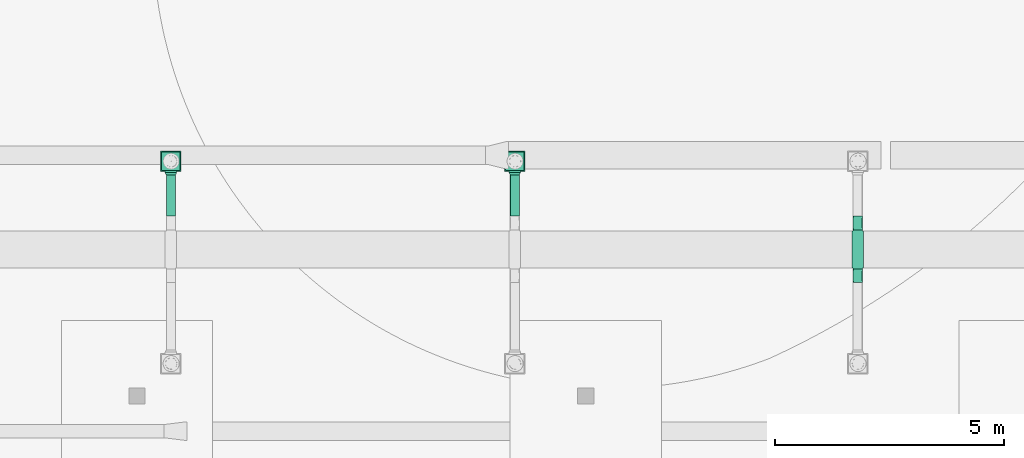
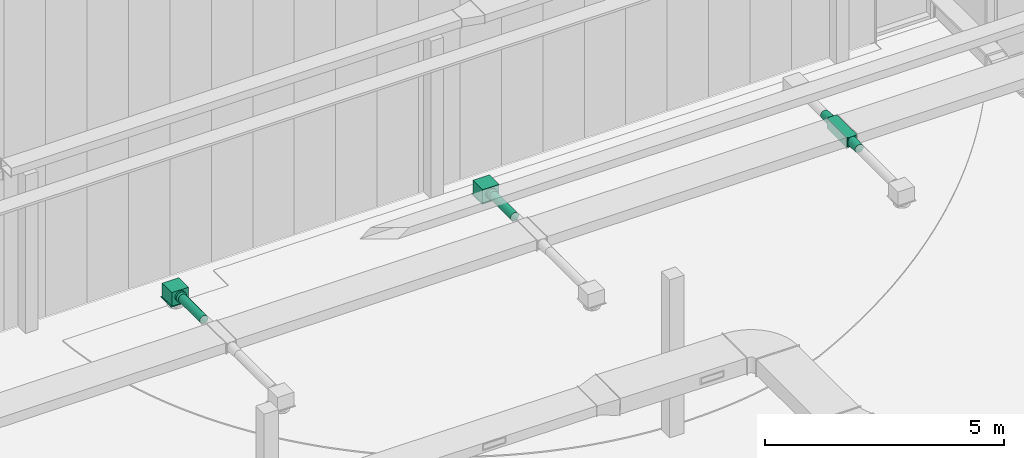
# One storey, part 274 of 302: 5 flow fittings, 2 flow segments, 2 flow terminals.
"""IFC2X3 building model written with IfcOpenShell, lengths in metres."""

import ifcopenshell
import ifcopenshell.guid

model = None  # the IFC model being written
_history = None  # IfcOwnerHistory: only IFC2X3 demands one
_inside = {}  # id of a spatial element -> (the spatial element, [elements in it])
_under = {}  # id of a project, library or spatial element -> (it, [spatial elements below it])
_declared = {}  # id of a project -> (the project, [libraries it declares])
_typed = {}  # id of a type object -> (the type object, [elements of that type])
_made_of = {}  # id of a material, layer set ... -> (it, [elements and type objects made of it])


def new_model(schema):
    """Start an empty IFC model of exactly this schema.

    Asked for "IFC4X3", IfcOpenShell would pick the latest addendum, in which some entities
    have other attributes; the version numbers below select the first issue.
    IFC2X3 requires an IfcOwnerHistory on every rooted entity: one is made here for all.
    """
    global model, _history
    if schema == "IFC4X3":
        model = ifcopenshell.file(schema_version=(4, 3, 0, 0))
    else:
        model = ifcopenshell.file(schema=schema)
    _inside.clear()
    _under.clear()
    _declared.clear()
    _typed.clear()
    _made_of.clear()
    _history = None
    if model.schema == "IFC2X3":
        org = make("IfcOrganization", Name="unknown")
        user = make(
            "IfcPersonAndOrganization",
            ThePerson=make("IfcPerson", FamilyName="unknown"),
            TheOrganization=org,
        )
        app = make(
            "IfcApplication",
            ApplicationDeveloper=org,
            Version="unknown",
            ApplicationFullName="unknown",
            ApplicationIdentifier="unknown",
        )
        _history = make(
            "IfcOwnerHistory",
            OwningUser=user,
            OwningApplication=app,
            ChangeAction="ADDED",
            CreationDate=0,
        )
    return model


def make(cls, **values):
    """One entity of the class cls with the attributes given. An attribute that is None is left unset."""
    return model.create_entity(
        cls, **{name: value for name, value in values.items() if value is not None}
    )


def entity(cls, *values):
    """Any entity or typed value of the class cls, its attributes in the order of the schema. None: left unset."""
    e = model.create_entity(cls)
    for i, value in enumerate(values):
        if value is not None:
            e[i] = value
    return e


def rooted(cls, **values):
    """An entity with a GlobalId (a new one), such as an element, a storey or a relation."""
    return make(cls, GlobalId=ifcopenshell.guid.new(), OwnerHistory=_history, **values)


def si_unit(unit_type, name, prefix=None):
    """IfcSIUnit, for example si_unit("LENGTHUNIT", "METRE", prefix="MILLI")."""
    return make("IfcSIUnit", UnitType=unit_type, Prefix=prefix, Name=name)


def converted_unit(unit_type, name, factor, base, dimensions=None, offset=None):
    """IfcConversionBasedUnit, such as the inch: factor (a typed value) times the base unit."""
    return make(
        "IfcConversionBasedUnit"
        if offset is None
        else "IfcConversionBasedUnitWithOffset",
        ConversionOffset=offset,
        Dimensions=None
        if dimensions is None
        else entity("IfcDimensionalExponents", *dimensions),
        UnitType=unit_type,
        Name=name,
        ConversionFactor=make(
            "IfcMeasureWithUnit", ValueComponent=factor, UnitComponent=base
        ),
    )


def derived_unit(unit_type, elements):
    """IfcDerivedUnit: a product of units, each with its exponent."""
    return make(
        "IfcDerivedUnit",
        Elements=[
            make("IfcDerivedUnitElement", Unit=unit, Exponent=power)
            for unit, power in elements
        ],
        UnitType=unit_type,
    )


def assignment(units):
    """IfcUnitAssignment: the units of a project."""
    return None if units is None else make("IfcUnitAssignment", Units=units)


def point(xyz):
    """IfcCartesianPoint."""
    return None if xyz is None else make("IfcCartesianPoint", Coordinates=xyz)


def direction(xyz):
    """IfcDirection."""
    return None if xyz is None else make("IfcDirection", DirectionRatios=xyz)


def frame(location, z_axis=None, x_axis=None):
    """IfcAxis2Placement3D, a coordinate frame: its origin and axes. An axis left out is left unset."""
    return make(
        "IfcAxis2Placement3D",
        Location=point(location),
        Axis=direction(z_axis),
        RefDirection=direction(x_axis),
    )


def frame_2d(location, x_axis=None):
    """IfcAxis2Placement2D, a coordinate frame in the plane: its origin and x axis."""
    return make(
        "IfcAxis2Placement2D", Location=point(location), RefDirection=direction(x_axis)
    )


def origin():
    """The frame at (0, 0, 0) with its axes left unset."""
    return frame((0.0, 0.0, 0.0))


def origin_2d_with_axis():
    """The frame at (0, 0) in the plane with the x axis (1, 0) written out."""
    return frame_2d((0.0, 0.0), x_axis=(1.0, 0.0))


def place(relative_to, where):
    """IfcLocalPlacement: puts the frame where relative to a parent placement (None: the world)."""
    return make(
        "IfcLocalPlacement", PlacementRelTo=relative_to, RelativePlacement=where
    )


def context(
    kind, dimensions, precision=None, world=None, true_north=None, identifier=None
):
    """IfcGeometricRepresentationContext, for example the 3D "Model" context."""
    return make(
        "IfcGeometricRepresentationContext",
        ContextIdentifier=identifier,
        ContextType=kind,
        CoordinateSpaceDimension=dimensions,
        Precision=precision,
        WorldCoordinateSystem=world,
        TrueNorth=true_north,
    )


def subcontext(parent, identifier, kind, view, scale=None):
    """IfcGeometricRepresentationSubContext, for example "Body" below "Model"."""
    return make(
        "IfcGeometricRepresentationSubContext",
        ContextIdentifier=identifier,
        ContextType=kind,
        ParentContext=parent,
        TargetScale=scale,
        TargetView=view,
    )


def project(units=None, contexts=None):
    """IfcProject with its units and contexts."""
    return rooted(
        "IfcProject",
        Name="project",
        RepresentationContexts=contexts,
        UnitsInContext=assignment(units),
    )


def spatial(cls, under=None, at=None, **own):
    """A site, building, storey or space (cls), placed at a placement, below another one or the project."""
    s = rooted(cls, ObjectPlacement=at, **own)
    if under is not None:
        _under.setdefault(under.id(), (under, []))[1].append(s)
    return s


def polyline(points):
    """IfcPolyline through the points."""
    return make("IfcPolyline", Points=[point(p) for p in points])


def profile(cls, at=None, kind="AREA", **sizes):
    """A parametric profile (cls). Its sizes go by their IFC names, for example OverallWidth=200.0."""
    return make(cls, ProfileType=kind, Position=at, **sizes)


def rectangle(**sizes):
    """IfcRectangleProfileDef."""
    return profile("IfcRectangleProfileDef", **sizes)


def circle(**sizes):
    """IfcCircleProfileDef."""
    return profile("IfcCircleProfileDef", **sizes)


def outline(outer, holes=None, kind="AREA"):
    """IfcArbitraryClosedProfileDef: a profile drawn as a closed curve; with holes, ...WithVoids."""
    if holes is None:
        return make("IfcArbitraryClosedProfileDef", ProfileType=kind, OuterCurve=outer)
    return make(
        "IfcArbitraryProfileDefWithVoids",
        ProfileType=kind,
        OuterCurve=outer,
        InnerCurves=holes,
    )


def extrude(swept, where, along, depth):
    """IfcExtrudedAreaSolid: the profile swept, set in the frame where, extruded along a direction by depth."""
    return make(
        "IfcExtrudedAreaSolid",
        SweptArea=swept,
        Position=where,
        ExtrudedDirection=direction(along),
        Depth=depth,
    )


def faces_of(points, faces, orient=None, outer=None):
    """IfcFace entities. A face is a list of loops; a loop is a list of indices into points, from 0.

    orient and outer hold one flag for each loop. By default every Orientation is true, the
    first loop of a face is its IfcFaceOuterBound and the others are IfcFaceBound.
    """
    made = []
    for i, loops in enumerate(faces):
        bounds = []
        for j, loop in enumerate(loops):
            is_outer = j == 0 if outer is None else outer[i][j]
            bounds.append(
                make(
                    "IfcFaceOuterBound" if is_outer else "IfcFaceBound",
                    Bound=make("IfcPolyLoop", Polygon=[points[k] for k in loop]),
                    Orientation=True if orient is None else orient[i][j],
                )
            )
        made.append(make("IfcFace", Bounds=bounds))
    return made


def faceted_brep(points, faces, orient=None, outer=None, voids=None):
    """IfcFacetedBrep: a solid bounded by flat faces; with voids (closed shells), ...WithVoids."""
    shared = [point(p) for p in points]
    hull = make("IfcClosedShell", CfsFaces=faces_of(shared, faces, orient, outer))
    if voids is None:
        return make("IfcFacetedBrep", Outer=hull)
    return make(
        "IfcFacetedBrepWithVoids",
        Outer=hull,
        Voids=[
            make(cls, CfsFaces=faces_of(shared, fs, o, b)) for cls, fs, o, b in voids
        ],
    )


def shape(context_of_items, identifier, shape_type, items):
    """IfcShapeRepresentation: the items that make up one representation, for example the "Body"."""
    return make(
        "IfcShapeRepresentation",
        ContextOfItems=context_of_items,
        RepresentationIdentifier=identifier,
        RepresentationType=shape_type,
        Items=items,
    )


def source(mapping_origin, context_of_items, identifier, shape_type, items):
    """IfcRepresentationMap: a shape defined once, which mapped items show again and again."""
    return make(
        "IfcRepresentationMap",
        MappingOrigin=mapping_origin,
        MappedRepresentation=shape(context_of_items, identifier, shape_type, items),
    )


def transform(
    local_origin,
    x_axis=None,
    y_axis=None,
    z_axis=None,
    scale=None,
    scale2=None,
    scale3=None,
    uniform=True,
):
    """IfcCartesianTransformationOperator3D, or its non-uniform kind. x_axis, y_axis, z_axis: its Axis1, 2, 3."""
    if uniform:
        return make(
            "IfcCartesianTransformationOperator3D",
            Axis1=direction(x_axis),
            Axis2=direction(y_axis),
            LocalOrigin=point(local_origin),
            Scale=scale,
            Axis3=direction(z_axis),
        )
    return make(
        "IfcCartesianTransformationOperator3DnonUniform",
        Axis1=direction(x_axis),
        Axis2=direction(y_axis),
        LocalOrigin=point(local_origin),
        Scale=scale,
        Axis3=direction(z_axis),
        Scale2=scale2,
        Scale3=scale3,
    )


def mapped(mapping_source, mapping_target):
    """IfcMappedItem: shows the shape of a source again, moved by a transform."""
    return make(
        "IfcMappedItem", MappingSource=mapping_source, MappingTarget=mapping_target
    )


def material(Name=None, Category=None):
    """IfcMaterial."""
    return make("IfcMaterial", Name=Name, Category=Category)


def material_list(materials):
    """IfcMaterialList."""
    return make("IfcMaterialList", Materials=materials)


def made_of(thing, what):
    """Note that an element or type object is made of a material, layer set ...; save() writes the relation."""
    if what is not None:
        _made_of.setdefault(what.id(), (what, []))[1].append(thing)
    return thing


def type_object(cls, material=None, **own):
    """A type object (cls), such as IfcWallType, which elements share."""
    return made_of(rooted(cls, **own), material)


def type_shapes(of_type, sources):
    """Give a type object the sources (RepresentationMaps) that its elements show as mapped items."""
    of_type.RepresentationMaps = sources


def element(
    cls,
    number,
    at=None,
    inside=None,
    cuts=None,
    type_object=None,
    material=None,
    context=None,
    identifier="Body",
    shape_type=None,
    held_by="IfcProductDefinitionShape",
    body=None,
    shapes=None,
    **own,
):
    """One element of the class cls, such as IfcWall. Its Tag is "e" and its number.

    at: its placement. inside: the storey or other place that contains it. cuts: it is an
    opening in that element (IfcRelVoidsElement). A single representation is given by context,
    identifier, shape_type and body (its items); several are given by shapes. held_by: the class
    of the entity that holds the representations. save() writes the other relations.
    """
    e = rooted(cls, Tag="e%d" % number, ObjectPlacement=at, **own)
    if body is not None:
        shapes = [shape(context, identifier, shape_type, body)]
    if shapes is not None:
        e.Representation = make(held_by, Representations=shapes)
    if inside is not None:
        _inside.setdefault(inside.id(), (inside, []))[1].append(e)
    if cuts is not None:
        rooted(
            "IfcRelVoidsElement", RelatingBuildingElement=cuts, RelatedOpeningElement=e
        )
    if type_object is not None:
        _typed.setdefault(type_object.id(), (type_object, []))[1].append(e)
    return made_of(e, material)


def aggregate(whole, parts):
    """IfcRelAggregates: a whole, such as a stair, and the parts it consists of."""
    return rooted("IfcRelAggregates", RelatingObject=whole, RelatedObjects=parts)


def save(model, path):
    """Write the relations noted so far, then the file.

    IfcRelAggregates (storeys below a building ...), IfcRelContainedInSpatialStructure (elements
    in a storey), IfcRelDefinesByType, IfcRelAssociatesMaterial and IfcRelDeclares: one each for
    every whole, place, type object, material and project.
    """
    for whole, parts in _under.values():
        aggregate(whole, parts)
    for where, things in _inside.values():
        rooted(
            "IfcRelContainedInSpatialStructure",
            RelatedElements=things,
            RelatingStructure=where,
        )
    for kind, things in _typed.values():
        rooted("IfcRelDefinesByType", RelatedObjects=things, RelatingType=kind)
    for what, things in _made_of.values():
        rooted("IfcRelAssociatesMaterial", RelatedObjects=things, RelatingMaterial=what)
    for by, libraries in _declared.values():
        rooted("IfcRelDeclares", RelatingContext=by, RelatedDefinitions=libraries)
    model.write(path)


model = new_model("IFC2X3")

# Units and contexts
model_context = context("Model", 3, precision=1e-05, world=origin(), true_north=direction((6.12303176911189e-17, 1.0)))
body_context = subcontext(model_context, "Body", "Model", "MODEL_VIEW")
ifc_project = project(units=[si_unit("LENGTHUNIT", "METRE"), si_unit("AREAUNIT", "SQUARE_METRE"), si_unit("VOLUMEUNIT", "CUBIC_METRE"), converted_unit("PLANEANGLEUNIT", "DEGREE", entity("IfcRatioMeasure", 0.0174532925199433), si_unit("PLANEANGLEUNIT", "RADIAN"), dimensions=[0, 0, 0, 0, 0, 0, 0]), si_unit("MASSUNIT", "GRAM", prefix="KILO"), derived_unit("MASSDENSITYUNIT", [(si_unit("MASSUNIT", "GRAM", prefix="KILO"), 1), (si_unit("LENGTHUNIT", "METRE"), -3)]), derived_unit("MOMENTOFINERTIAUNIT", [(si_unit("LENGTHUNIT", "METRE"), 4)]), si_unit("TIMEUNIT", "SECOND"), si_unit("FREQUENCYUNIT", "HERTZ"), si_unit("THERMODYNAMICTEMPERATUREUNIT", "DEGREE_CELSIUS"), derived_unit("THERMALTRANSMITTANCEUNIT", [(si_unit("MASSUNIT", "GRAM", prefix="KILO"), 1), (si_unit("THERMODYNAMICTEMPERATUREUNIT", "KELVIN"), -1), (si_unit("TIMEUNIT", "SECOND"), -3)]), derived_unit("VOLUMETRICFLOWRATEUNIT", [(si_unit("LENGTHUNIT", "METRE"), 3), (si_unit("TIMEUNIT", "SECOND"), -1)]), si_unit("ELECTRICCURRENTUNIT", "AMPERE"), si_unit("ELECTRICVOLTAGEUNIT", "VOLT"), si_unit("POWERUNIT", "WATT"), si_unit("FORCEUNIT", "NEWTON", prefix="KILO"), si_unit("ILLUMINANCEUNIT", "LUX"), si_unit("LUMINOUSFLUXUNIT", "LUMEN"), si_unit("LUMINOUSINTENSITYUNIT", "CANDELA"), derived_unit("USERDEFINED", [(si_unit("MASSUNIT", "GRAM", prefix="KILO"), -1), (si_unit("LENGTHUNIT", "METRE"), -2), (si_unit("TIMEUNIT", "SECOND"), 3), (si_unit("LUMINOUSFLUXUNIT", "LUMEN"), 1)]), derived_unit("LINEARVELOCITYUNIT", [(si_unit("LENGTHUNIT", "METRE"), 1), (si_unit("TIMEUNIT", "SECOND"), -1)]), si_unit("PRESSUREUNIT", "PASCAL"), derived_unit("USERDEFINED", [(si_unit("LENGTHUNIT", "METRE"), -2), (si_unit("MASSUNIT", "GRAM", prefix="KILO"), 1), (si_unit("TIMEUNIT", "SECOND"), -2)]), derived_unit("LINEARFORCEUNIT", [(si_unit("MASSUNIT", "GRAM", prefix="KILO"), 1), (si_unit("LENGTHUNIT", "METRE"), 1), (si_unit("TIMEUNIT", "SECOND"), -2), (si_unit("LENGTHUNIT", "METRE"), -1)]), derived_unit("PLANARFORCEUNIT", [(si_unit("MASSUNIT", "GRAM", prefix="KILO"), 1), (si_unit("LENGTHUNIT", "METRE"), 1), (si_unit("TIMEUNIT", "SECOND"), -2), (si_unit("LENGTHUNIT", "METRE"), -2)])], contexts=[model_context])

# Site, building, storey
site_placement = place(None, origin())
site = spatial("IfcSite", under=ifc_project, at=site_placement, Name="Default", CompositionType="ELEMENT")
building_placement = place(site_placement, origin())
building = spatial("IfcBuilding", under=site, at=building_placement, CompositionType="ELEMENT")
storey_placement = place(building_placement, frame((0.0, 0.0, -1.3)))
storey = spatial("IfcBuildingStorey", under=building, at=storey_placement, Name="00_EG", CompositionType="ELEMENT", Elevation=-1.3)

# Flow segments
duct_segment_type = type_object("IfcDuctSegmentType", Name="Rund:STR_Segment_RND_GS_EA", PredefinedType="NOTDEFINED")
flow_segment_1_placement = place(storey_placement, origin())
element("IfcFlowSegment", 1, at=flow_segment_1_placement, inside=storey, type_object=duct_segment_type, Name="Rund:STR_Segment_RND_GS_EA", ObjectType="Rund:STR_Segment_RND_GS_EA", context=body_context, shape_type="SweptSolid", body=[
    extrude(circle(Radius=0.1, at=origin_2d_with_axis()), frame((-255.983284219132, 39.3332258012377, 4.91), z_axis=(0.0, 1.0, 0.0), x_axis=(1.0, 0.0, 0.0)), (0.0, 0.0, 1.0), 0.897893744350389),
])
flow_segment_2_placement = place(storey_placement, origin())
element("IfcFlowSegment", 2, at=flow_segment_2_placement, inside=storey, type_object=duct_segment_type, Name="Rund:STR_Segment_RND_GS_EA", ObjectType="Rund:STR_Segment_RND_GS_EA", context=body_context, shape_type="SweptSolid", body=[
    extrude(circle(Radius=0.1, at=origin_2d_with_axis()), frame((-248.483293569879, 39.3332258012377, 4.91), z_axis=(0.0, 1.0, 0.0), x_axis=(1.0, 0.0, 0.0)), (0.0, 0.0, 1.0), 0.897893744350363),
])

# Flow fitting
ifc_material = material(Name="<Unnamed>")
duct_fitting_type_1 = type_object("IfcDuctFittingType", Name="STR_RCT_Cross:STR_Cross_RCT_GS_RA", PredefinedType="NOTDEFINED", material=ifc_material)
shared_shape_1 = source(origin(), body_context, "Body", "SweptSolid", [
    extrude(outline(polyline([(-0.424999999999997, 0.0999999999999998), (-0.424999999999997, -0.1), (-0.400000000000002, -0.1), (-0.400000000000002, -0.124999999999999), (0.399999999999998, -0.124999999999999), (0.399999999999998, -0.100000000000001), (0.425000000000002, -0.100000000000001), (0.425000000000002, 0.0999999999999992), (0.399999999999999, 0.0999999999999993), (0.399999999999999, 0.125000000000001), (-0.400000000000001, 0.125000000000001), (-0.400000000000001, 0.0999999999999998), (-0.424999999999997, 0.0999999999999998)])), frame((0.0, 0.0, -0.125000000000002), z_axis=(0.0, 0.0, -1.0), x_axis=(0.0, 1.0, 0.0)), (0.0, 0.0, -1.0), 0.25),
])
type_shapes(duct_fitting_type_1, [shared_shape_1])
flow_fitting_placement = place(storey_placement, frame((-241.004454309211, 38.6082258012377, 4.91), z_axis=(0.0, 0.0, 1.0), x_axis=(-1.0, 0.0, 0.0)))
element("IfcFlowFitting", 3, at=flow_fitting_placement, inside=storey, type_object=duct_fitting_type_1, material=ifc_material, Name="STR_RCT_Cross:STR_Cross_RCT_GS_RA", ObjectType="STR_RCT_Cross:STR_Cross_RCT_GS_RA", context=body_context, shape_type="MappedRepresentation", body=[
    mapped(shared_shape_1, transform((0.0, 0.0, 0.0), scale=1.0)),
])

# Flow terminals
ifc_material_list = material_list([ifc_material, ifc_material, ifc_material])
air_terminal_type = type_object("IfcAirTerminalType", Name="Drallauslass Zuluft seitlich:600 quadratisch", PredefinedType="NOTDEFINED", material=ifc_material_list)
shared_shape_2 = source(origin(), body_context, "Body", "SweptSolid", [
    extrude(rectangle(XDim=0.449999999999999, YDim=0.450000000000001, at=origin_2d_with_axis()), frame((0.0, 0.0, 2.692), z_axis=(0.0, 0.0, 1.0), x_axis=(-1.0, 0.0, 0.0)), (0.0, 0.0, 1.0), 0.00800000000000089),
    extrude(circle(Radius=0.125, at=frame_2d((1.22275294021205e-18, 0.0), x_axis=(1.0, 0.0))), frame((-0.25, 0.0, 2.89500000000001), z_axis=(1.0, 0.0, 0.0), x_axis=(0.0, 1.0, 0.0)), (0.0, 0.0, 1.0), 0.0499999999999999),
    extrude(rectangle(XDim=0.399999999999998, YDim=0.4, at=origin_2d_with_axis()), frame((0.0, 0.0, 2.7), z_axis=(0.0, 0.0, 1.0), x_axis=(-1.0, 0.0, 0.0)), (0.0, 0.0, 1.0), 0.345000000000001),
])
type_shapes(air_terminal_type, [shared_shape_2])
for number, where, z_axis, x_axis, name in (
    (4, (-255.983284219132, 40.5311195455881, 2.01499999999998), (0.0, 0.0, 1.0), (0.0, 1.0, 0.0), "Drallauslass Zuluft seitlich:600 quadratisch"),
    (5, (-248.483293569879, 40.531119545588, 2.01499999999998), (0.0, 0.0, 1.0), (0.0, 1.0, 0.0), "Drallauslass Zuluft seitlich:600 quadratisch"),
):
    element("IfcFlowTerminal", number, at=place(storey_placement, frame(where, z_axis=z_axis, x_axis=x_axis)), inside=storey, type_object=air_terminal_type, material=ifc_material, Name=name, ObjectType="Drallauslass Zuluft seitlich:600 quadratisch", context=body_context, shape_type="MappedRepresentation", body=[
        mapped(shared_shape_2, transform((0.0, 0.0, 0.0), scale=1.0)),
    ])

# Flow fittings
duct_fitting_type_2 = type_object("IfcDuctFittingType", Name="STR_OVL_Transition:STR_Transition_OVL_GS_EA", PredefinedType="NOTDEFINED", material=ifc_material)
shared_shape_3 = source(origin(), body_context, "Body", "Brep", [
    faceted_brep([(0.300000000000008, 0.0999999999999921, 0.00158749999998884), (0.300000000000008, 0.0966466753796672, 0.0270585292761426), (0.300000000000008, 0.0868152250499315, 0.050793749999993), (0.300000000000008, 0.0711756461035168, 0.0711756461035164), (0.300000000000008, 0.0507937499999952, 0.0868152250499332), (0.300000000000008, 0.0270585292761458, 0.0966466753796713), (0.300000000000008, 0.00158749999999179, 0.0999999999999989), (0.300000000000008, -0.00158750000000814, 0.0999999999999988), (0.300000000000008, -0.0270585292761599, 0.0966466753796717), (0.300000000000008, -0.0507937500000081, 0.0868152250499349), (0.300000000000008, -0.0711756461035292, 0.07117564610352), (0.300000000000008, -0.0868152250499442, 0.0507937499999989), (0.300000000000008, -0.0966466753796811, 0.0270585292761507), (0.300000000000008, -0.100000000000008, 0.00158749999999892), (0.300000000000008, -0.100000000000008, -0.00158750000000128), (0.300000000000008, -0.0966466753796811, -0.0270585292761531), (0.300000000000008, -0.0868152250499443, -0.0507937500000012), (0.300000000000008, -0.0711756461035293, -0.0711756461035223), (0.300000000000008, -0.0507937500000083, -0.0868152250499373), (0.300000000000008, -0.0270585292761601, -0.0966466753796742), (0.300000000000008, -0.00158750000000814, -0.100000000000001), (0.300000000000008, 0.0015874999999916, -0.100000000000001), (0.300000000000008, 0.0270585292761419, -0.0966466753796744), (0.300000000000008, 0.0507937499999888, -0.0868152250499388), (0.300000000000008, 0.0711756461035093, -0.0711756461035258), (0.300000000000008, 0.0868152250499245, -0.0507937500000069), (0.300000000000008, 0.0966466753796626, -0.0270585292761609), (0.300000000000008, 0.0999999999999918, -0.00158750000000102), (0.0, 0.00158749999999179, -0.125000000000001), (0.0, -0.00158750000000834, -0.125000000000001), (0.0, -0.0270585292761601, -0.121646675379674), (0.0, -0.0507937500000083, -0.111815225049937), (0.0, -0.0711756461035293, -0.0961756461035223), (0.0, -0.0868152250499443, -0.0757937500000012), (0.0, -0.0966466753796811, -0.0520585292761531), (0.0, -0.100000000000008, -0.026587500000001), (0.0, -0.100000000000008, 0.0265874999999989), (0.0, -0.0966466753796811, 0.0520585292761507), (0.0, -0.0868152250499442, 0.0757937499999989), (0.0, -0.0711756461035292, 0.0961756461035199), (0.0, -0.0507937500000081, 0.111815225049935), (0.0, -0.0270585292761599, 0.121646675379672), (0.0, -0.00158750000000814, 0.124999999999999), (0.0, 0.00158749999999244, 0.124999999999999), (0.0, 0.0270585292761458, 0.121646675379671), (0.0, 0.0507937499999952, 0.111815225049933), (0.0, 0.0711756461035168, 0.0961756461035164), (0.0, 0.0868152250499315, 0.0757937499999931), (0.0, 0.0966466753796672, 0.0520585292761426), (0.0, 0.0999999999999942, 0.026587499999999), (0.0, 0.0999999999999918, -0.0265875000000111), (0.0, 0.0966466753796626, -0.052058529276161), (0.0, 0.0868152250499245, -0.0757937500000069), (0.0, 0.0711756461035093, -0.0961756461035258), (0.0, 0.0507937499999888, -0.111815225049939), (0.0, 0.0270585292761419, -0.121646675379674), (0.154247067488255, -0.0203412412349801, 0.110342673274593), (0.145752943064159, -0.0981965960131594, 0.03319516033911), (0.107489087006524, -0.00158750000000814, 0.116042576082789), (0.149999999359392, -0.0614972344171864, 0.0921633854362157), (0.15000000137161, -0.0392483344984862, 0.105008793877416), (0.150000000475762, -0.0796633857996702, 0.0739972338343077), (0.192510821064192, -0.100000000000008, 0.0105449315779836), (0.149999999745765, -0.0925087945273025, 0.0517483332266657), (0.107489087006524, -0.100000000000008, -0.0176300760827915), (0.154247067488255, -0.0981965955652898, -0.0324873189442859), (0.145752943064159, -0.0203412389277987, -0.111050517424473), (0.149999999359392, -0.0796633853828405, -0.0739972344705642), (0.15000000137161, -0.0925087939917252, -0.0517483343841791), (0.150000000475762, -0.0614972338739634, -0.0921633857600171), (0.192511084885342, -0.00158750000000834, -0.10895740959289), (0.149999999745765, -0.0392483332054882, -0.105008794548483), (0.107489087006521, 0.0015874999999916, -0.116042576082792), (0.154247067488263, 0.0203412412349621, -0.110342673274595), (0.145752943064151, 0.0981965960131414, -0.0331951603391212), (0.149999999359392, 0.0614972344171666, -0.0921633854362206), (0.15000000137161, 0.0392483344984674, -0.105008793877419), (0.150000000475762, 0.0796633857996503, -0.0739972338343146), (0.192510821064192, 0.0999999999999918, -0.0105449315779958), (0.149999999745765, 0.0925087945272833, -0.0517483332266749), (0.107489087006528, 0.0999999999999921, 0.0176300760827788), (0.154247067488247, 0.0981965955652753, 0.0324873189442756), (0.145752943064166, 0.0203412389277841, 0.11105051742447), (0.149999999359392, 0.079663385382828, 0.0739972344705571), (0.15000000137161, 0.0925087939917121, 0.0517483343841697), (0.150000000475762, 0.0614972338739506, 0.0921633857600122), (0.192510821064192, 0.00158749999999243, 0.108957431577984), (0.149999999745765, 0.0392483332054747, 0.105008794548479)], [[[0, 1, 2, 3, 4, 5, 6, 7, 8, 9, 10, 11, 12, 13, 14, 15, 16, 17, 18, 19, 20, 21, 22, 23, 24, 25, 26, 27]], [[28, 29, 30, 31, 32, 33, 34, 35, 36, 37, 38, 39, 40, 41, 42, 43, 44, 45, 46, 47, 48, 49, 50, 51, 52, 53, 54, 55]], [[56, 42, 41]], [[36, 57, 37]], [[56, 7, 58, 42]], [[40, 39, 59]], [[41, 60, 56]], [[59, 60, 40]], [[61, 59, 39]], [[41, 40, 60]], [[8, 56, 60]], [[10, 9, 59]], [[9, 60, 59]], [[57, 36, 62, 13]], [[38, 37, 63]], [[63, 61, 38]], [[12, 57, 13]], [[12, 63, 57]], [[9, 8, 60]], [[10, 61, 11]], [[12, 11, 63]], [[63, 11, 61]], [[37, 57, 63]], [[61, 10, 59]], [[61, 39, 38]], [[7, 56, 8]], [[35, 64, 14, 13, 62, 36]], [[65, 35, 34]], [[29, 66, 30]], [[65, 14, 64, 35]], [[33, 32, 67]], [[34, 68, 65]], [[67, 68, 33]], [[69, 67, 32]], [[34, 33, 68]], [[15, 65, 68]], [[17, 16, 67]], [[16, 68, 67]], [[66, 29, 70, 20]], [[31, 30, 71]], [[71, 69, 31]], [[19, 66, 20]], [[19, 71, 66]], [[16, 15, 68]], [[17, 69, 18]], [[19, 18, 71]], [[71, 18, 69]], [[30, 66, 71]], [[69, 17, 67]], [[69, 32, 31]], [[14, 65, 15]], [[28, 72, 21, 20, 70, 29]], [[73, 28, 55]], [[50, 74, 51]], [[73, 21, 72, 28]], [[54, 53, 75]], [[55, 76, 73]], [[75, 76, 54]], [[77, 75, 53]], [[55, 54, 76]], [[22, 73, 76]], [[24, 23, 75]], [[23, 76, 75]], [[74, 50, 78, 27]], [[52, 51, 79]], [[79, 77, 52]], [[26, 74, 27]], [[26, 79, 74]], [[23, 22, 76]], [[24, 77, 25]], [[26, 25, 79]], [[79, 25, 77]], [[51, 74, 79]], [[77, 24, 75]], [[77, 53, 52]], [[21, 73, 22]], [[49, 80, 0, 27, 78, 50]], [[81, 49, 48]], [[43, 82, 44]], [[81, 0, 80, 49]], [[47, 46, 83]], [[48, 84, 81]], [[83, 84, 47]], [[85, 83, 46]], [[48, 47, 84]], [[1, 81, 84]], [[3, 2, 83]], [[2, 84, 83]], [[82, 43, 86, 6]], [[45, 44, 87]], [[87, 85, 45]], [[5, 82, 6]], [[5, 87, 82]], [[2, 1, 84]], [[3, 85, 4]], [[5, 4, 87]], [[87, 4, 85]], [[44, 82, 87]], [[85, 3, 83]], [[85, 46, 45]], [[0, 81, 1]], [[42, 58, 7, 6, 86, 43]]]),
])
type_shapes(duct_fitting_type_2, [shared_shape_3])
for number, where, z_axis, x_axis in (
    (6, (-241.004454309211, 39.0332258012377, 4.91), (0.0, 0.0, 1.0), (0.0, 1.0, 0.0)),
    (7, (-241.004454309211, 38.1832258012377, 4.91), (0.0, 0.0, 1.0), (0.0, -1.0, 0.0)),
):
    element("IfcFlowFitting", number, at=place(storey_placement, frame(where, z_axis=z_axis, x_axis=x_axis)), inside=storey, type_object=duct_fitting_type_2, material=ifc_material, Name="STR_OVL_Transition:STR_Transition_OVL_GS_EA", ObjectType="STR_OVL_Transition:STR_Transition_OVL_GS_EA", context=body_context, shape_type="MappedRepresentation", body=[
        mapped(shared_shape_3, transform((0.0, 0.0, 0.0), scale=1.0)),
    ])
duct_fitting_type_3 = type_object("IfcDuctFittingType", Name="STR_RND_Transition:STR_Transition_RND_GS_EA", PredefinedType="NOTDEFINED", material=ifc_material)
shared_shape_4 = source(origin(), body_context, "Body", "Brep", [
    faceted_brep([(0.0500000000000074, -0.073473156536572, -0.1011271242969), (0.0500000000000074, -0.0386271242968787, -0.118882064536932), (0.0500000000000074, 0.0, -0.12500000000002), (0.0500000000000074, 0.0386271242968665, -0.11888206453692), (0.0500000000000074, 0.073473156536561, -0.101127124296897), (0.0500000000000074, 0.101127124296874, -0.0734731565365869), (0.0500000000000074, 0.1188820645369, -0.038627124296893), (0.0500000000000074, 0.124999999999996, 0.0), (0.0500000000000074, 0.118882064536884, 0.0386271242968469), (0.0500000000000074, 0.101127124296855, 0.073473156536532), (0.0500000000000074, 0.0734731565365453, 0.101127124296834), (0.0500000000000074, 0.0386271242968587, 0.118882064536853), (0.0500000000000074, 0.0, 0.12499999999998), (0.0500000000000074, -0.0386271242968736, 0.118882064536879), (0.0500000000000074, -0.0734731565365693, 0.101127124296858), (0.0500000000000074, -0.101127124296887, 0.0734731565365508), (0.0500000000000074, -0.118882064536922, 0.0386271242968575), (0.0500000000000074, -0.125000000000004, 0.0), (0.0500000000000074, -0.118882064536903, -0.0386271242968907), (0.0500000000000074, -0.101127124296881, -0.0734731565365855), (0.0, 0.0309016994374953, -0.0951056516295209), (0.0, 0.0, -0.100000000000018), (0.0, -0.0309016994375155, -0.0951056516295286), (0.0, -0.0587785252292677, -0.0809016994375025), (0.0, -0.0809016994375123, -0.0587785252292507), (0.0, -0.0951056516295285, -0.0309016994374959), (0.0, -0.100000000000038, 0.0), (0.0, -0.0951056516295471, 0.0309016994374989), (0.0, -0.0809016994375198, 0.0587785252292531), (0.0, -0.058778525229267, 0.0809016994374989), (0.0, -0.0309016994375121, 0.0951056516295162), (0.0, 0.0, 0.0999999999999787), (0.0, 0.0309016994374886, 0.0951056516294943), (0.0, 0.0587785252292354, 0.0809016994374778), (0.0, 0.0809016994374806, 0.0587785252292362), (0.0, 0.0951056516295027, 0.0309016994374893), (0.0, 0.0999999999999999, 0.0), (0.0, 0.0951056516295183, -0.0309016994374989), (0.0, 0.0809016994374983, -0.0587785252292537), (0.0, 0.0587785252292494, -0.0809016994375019)], [[[0, 1, 2, 3, 4, 5, 6, 7, 8, 9, 10, 11, 12, 13, 14, 15, 16, 17, 18, 19]], [[20, 21, 22, 23, 24, 25, 26, 27, 28, 29, 30, 31, 32, 33, 34, 35, 36, 37, 38, 39]], [[35, 34, 9, 8]], [[36, 35, 8, 7]], [[34, 33, 10, 9]], [[10, 33, 32, 11]], [[11, 32, 31, 12]], [[30, 29, 14, 13]], [[31, 30, 13, 12]], [[29, 28, 15, 14]], [[15, 28, 27, 16]], [[16, 27, 26, 17]], [[25, 24, 19, 18]], [[26, 25, 18, 17]], [[24, 23, 0, 19]], [[0, 23, 22, 1]], [[1, 22, 21, 2]], [[20, 39, 4, 3]], [[21, 20, 3, 2]], [[39, 38, 5, 4]], [[5, 38, 37, 6]], [[6, 37, 36, 7]]]),
])
type_shapes(duct_fitting_type_3, [shared_shape_4])
for number, where, z_axis, x_axis in (
    (8, (-255.983284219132, 40.2311195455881, 4.90999999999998), (0.0, 0.0, 1.0), (0.0, 1.0, 0.0)),
    (9, (-248.483293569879, 40.231119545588, 4.90999999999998), (0.0, 0.0, 1.0), (0.0, 1.0, 0.0)),
):
    element("IfcFlowFitting", number, at=place(storey_placement, frame(where, z_axis=z_axis, x_axis=x_axis)), inside=storey, type_object=duct_fitting_type_3, material=ifc_material, Name="STR_RND_Transition:STR_Transition_RND_GS_EA", ObjectType="STR_RND_Transition:STR_Transition_RND_GS_EA", context=body_context, shape_type="MappedRepresentation", body=[
        mapped(shared_shape_4, transform((0.0, 0.0, 0.0), scale=1.0)),
    ])

save(model, "model.ifc")
